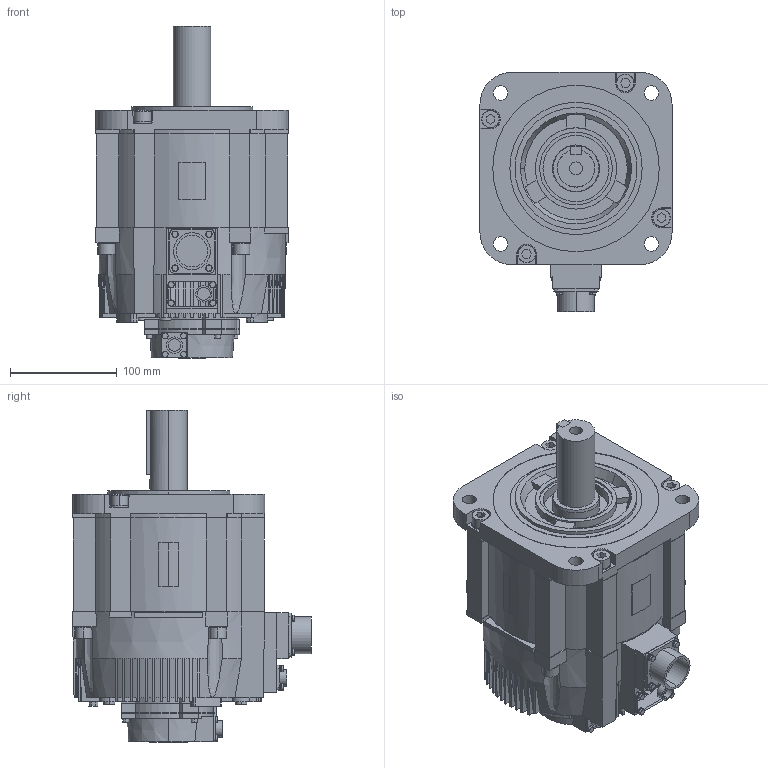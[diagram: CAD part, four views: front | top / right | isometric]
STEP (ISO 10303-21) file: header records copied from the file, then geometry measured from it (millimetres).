
FILE_DESCRIPTION (( 'STEP AP203' ), '1' );
FILE_NAME ('sgm7g_44__a6c.STEP', '2014-05-07T05:09:43', ( '匠エンジニアリング山之内' ), ( 'TAKUMI-Engniaring' ), 'SwSTEP 2.0', 'SolidWorks 2006303', '' );
FILE_SCHEMA (( 'CONFIG_CONTROL_DESIGN' ));
Length unit declared in the file: millimetre
Products named in the file (3): sgm7g_44__a6c; sgm7g_44__a6c_base; sgm7g_44__a6c_key
Assembly tree (2 placements, depth 2):
  sgm7g_44__a6c
    sgm7g_44__a6c_base
    sgm7g_44__a6c_key
Bounding box: 180 x 223.85 x 311.1 mm (x, y, z)
Volume: 5311367.2 mm3; surface area: 278553.1 mm2
Topology: 2 solids, 2 shells, 956 faces, 2514 edges, 1659 vertices
Faces by surface type: plane 628, cylinder 259, cone 69
Entity records: 30673 total; most frequent: CARTESIAN_POINT 6310, DIRECTION 5055, ORIENTED_EDGE 5028, EDGE_CURVE 2514, AXIS2_PLACEMENT_3D 1789, VERTEX_POINT 1659, VECTOR 1477, LINE 1477
